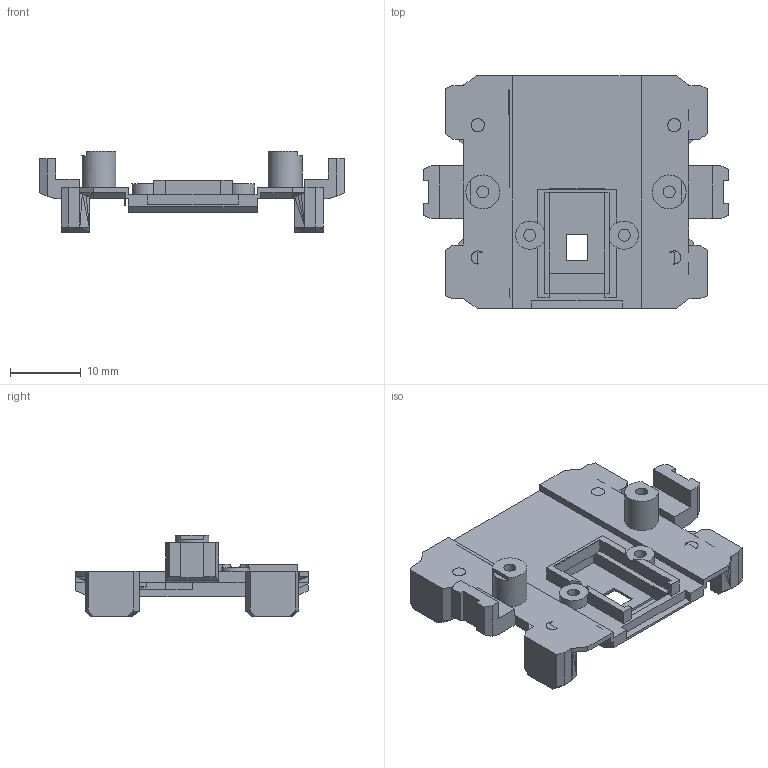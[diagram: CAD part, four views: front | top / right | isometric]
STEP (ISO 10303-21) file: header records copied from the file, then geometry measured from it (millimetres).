
FILE_DESCRIPTION(('Open CASCADE Model'),'2;1');
FILE_NAME('Open CASCADE Shape Model','2026-10-01T12:00:11',('Author'),( 'Open CASCADE'),'Open CASCADE STEP processor 7.9','Open CASCADE 7.9' ,'Unknown');
FILE_SCHEMA(('AUTOMOTIVE_DESIGN { 1 0 10303 214 1 1 1 1 }'));
Products named in the file (1): Open CASCADE STEP translator 7.9 1
Bounding box: 43.15 x 32.95 x 11.48 mm (x, y, z)
Volume: 3007 mm3; surface area: 4092.8 mm2
Topology: 1 solids, 1 shells, 1318 faces, 2988 edges, 1683 vertices
Faces by surface type: plane 1302, cylinder 16
Full cylindrical faces by diameter (mm): 1.7 x4, 4.8 x2
Entity records: 73653 total; most frequent: CARTESIAN_POINT 12089, DIRECTION 11529, LINE 8773, VECTOR 8773, ORIENTED_EDGE 5976, PCURVE 5976, DEFINITIONAL_REPRESENTATION 5976, EDGE_CURVE 2988
